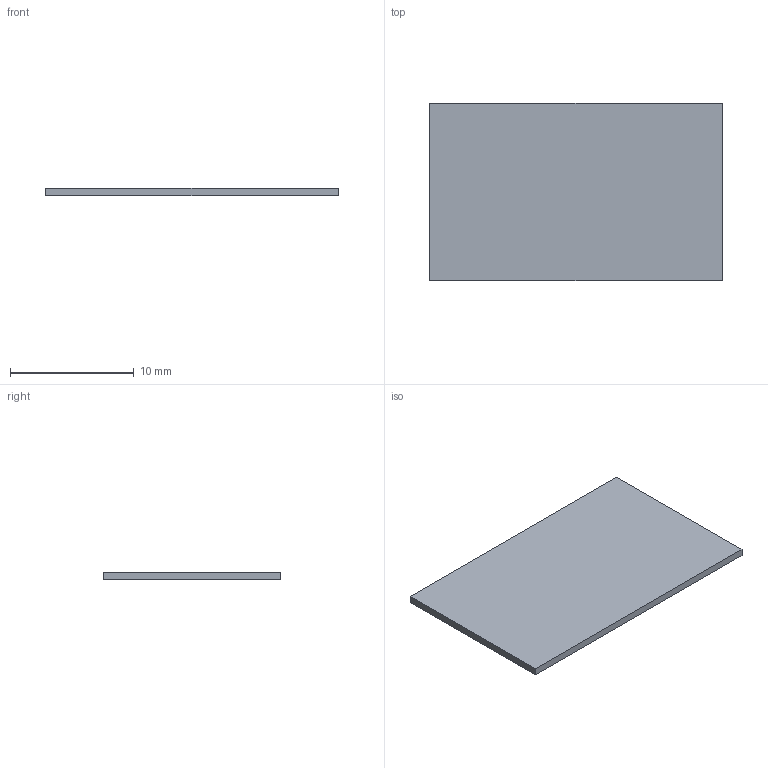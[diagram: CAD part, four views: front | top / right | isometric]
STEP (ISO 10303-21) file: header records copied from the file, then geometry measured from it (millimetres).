
FILE_DESCRIPTION(('Open CASCADE Model'),'2;1');
FILE_NAME('Open CASCADE Shape Model','2026-10-21T18:51:09',('Author'),( 'Open CASCADE'),'Open CASCADE STEP processor 8.0','build123d', 'Unknown');
FILE_SCHEMA(('AUTOMOTIVE_DESIGN { 1 0 10303 214 1 1 1 1 }'));
Length unit declared in the file: millimetre
Products named in the file (2): =>[0:1:1:2]; COMPOUND
Assembly tree (1 placements, depth 2):
  =>[0:1:1:2]
    COMPOUND
Bounding box: 23.6 x 14.3 x 0.6 mm (x, y, z)
Volume: 202.5 mm3; surface area: 720.4 mm2
Topology: 1 solids, 1 shells, 6 faces, 12 edges, 8 vertices
Faces by surface type: plane 6
Entity records: 340 total; most frequent: CARTESIAN_POINT 52, DIRECTION 52, LINE 36, VECTOR 36, ORIENTED_EDGE 24, PCURVE 24, DEFINITIONAL_REPRESENTATION 24, EDGE_CURVE 12
